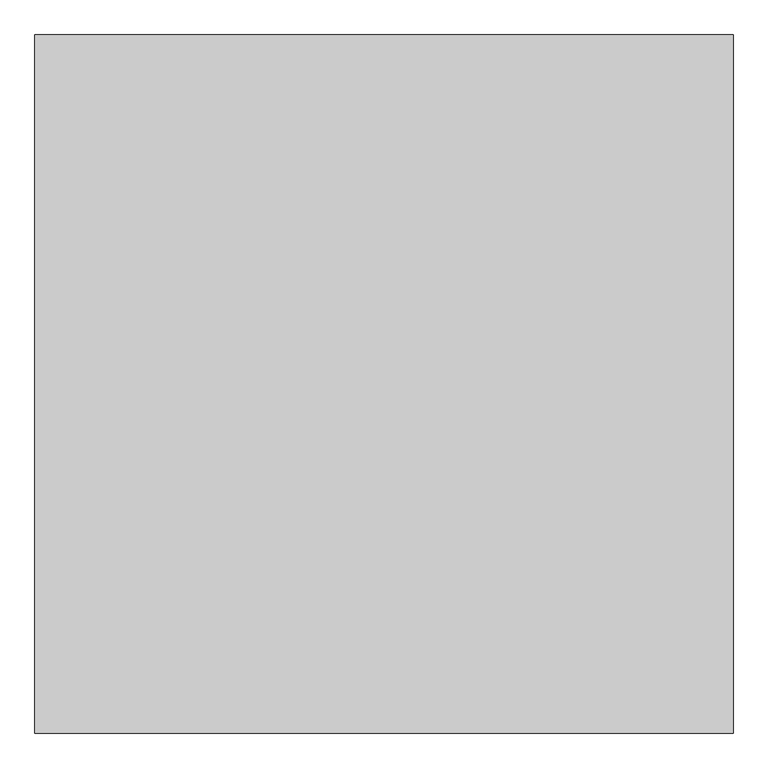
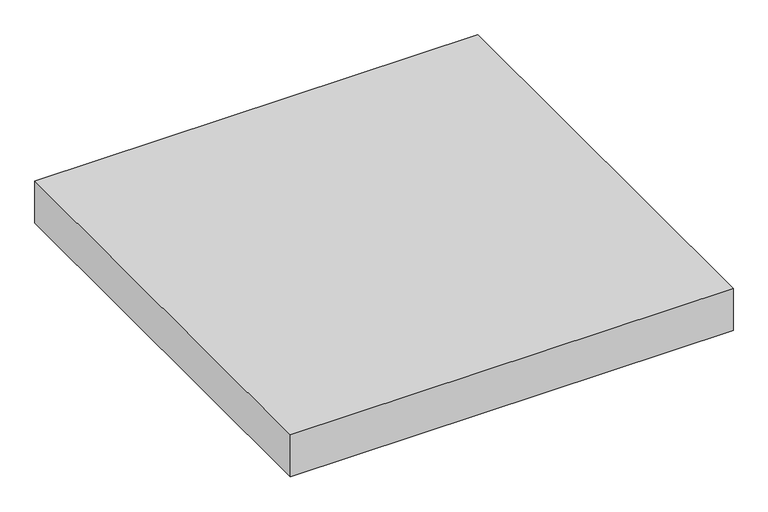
"""IFC4 building model written with IfcOpenShell, lengths in millimetres: proxy geometry, Modelos genéricos 1 : Modelos genéricos 1."""

from ifc_helpers import new_model, si_unit, origin, origin_with_axes, place, context, project, spatial, polyline, outline, extrude, source, transform, mapped, element, save


def generic_models_0c09b2ec(model_context):
    return source(origin(), model_context, "Body", "SweptSolid", [
        extrude(outline(polyline([(-14225.6026359, 11454.287186), (-14225.6026359, 9954.287186), (-15725.6026359, 9954.287186), (-15725.6026359, 11454.287186), (-14225.6026359, 11454.287186)])), origin_with_axes(), (0.0, 0.0, 1.0), 150.0),
    ])


if __name__ == "__main__":
    model = new_model("IFC4")
    model_context = context("Model", 3, world=origin())
    ifc_project = project(units=[si_unit("LENGTHUNIT", "METRE", prefix="MILLI")], contexts=[model_context])
    site = spatial("IfcSite", under=ifc_project)
    building = spatial("IfcBuilding", under=site)
    placement = place(None, origin())
    generic_models_shape = generic_models_0c09b2ec(model_context)
    element("IfcBuildingElementProxy", 1, Name="Modelos genéricos 1 : Modelos genéricos 1", ObjectType="Modelos genéricos 1 : Modelos genéricos 1", at=placement, inside=building, context=model_context, shape_type="MappedRepresentation", body=[
        mapped(generic_models_shape, transform((0.0, 0.0, 0.0), x_axis=(1.0, 0.0, 0.0), y_axis=(0.0, 1.0, 0.0), z_axis=(0.0, 0.0, 1.0))),
    ])
    save(model, "model.ifc")
